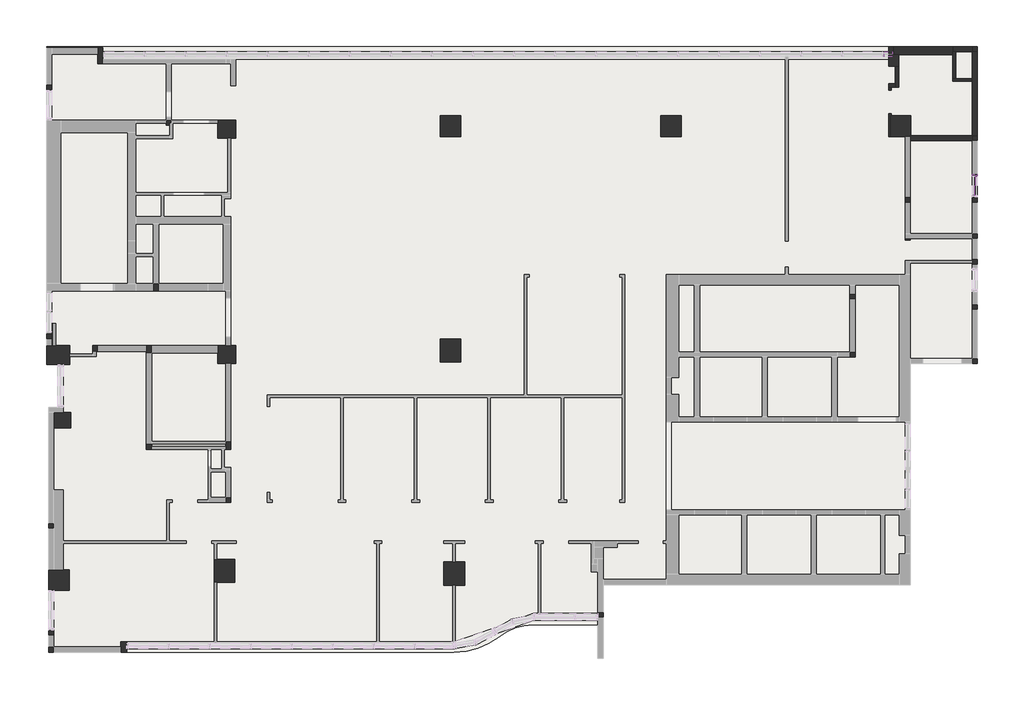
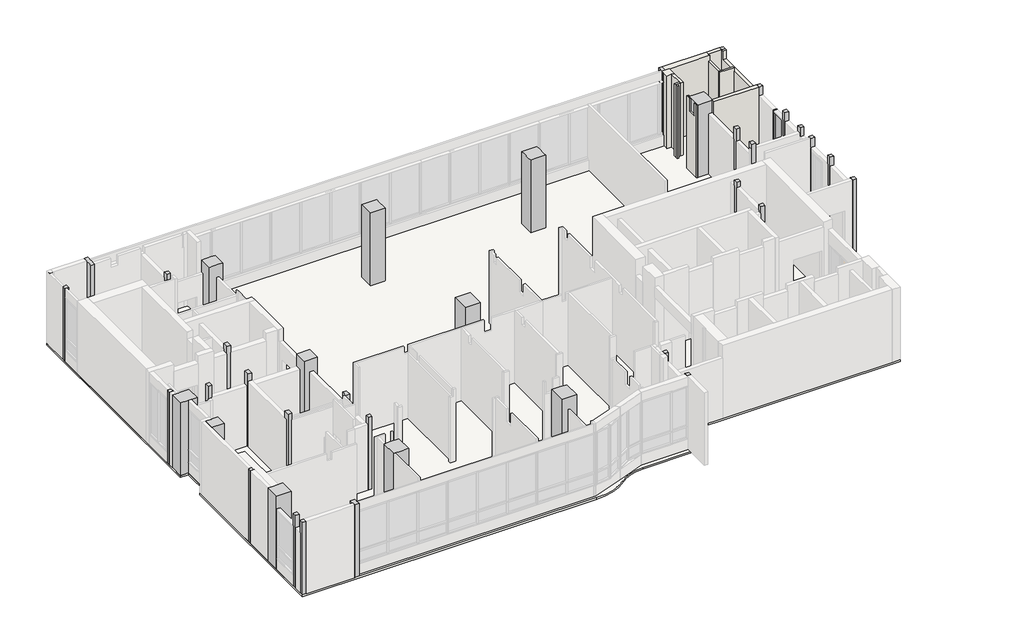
# One storey, part 5 of 5: 40 columns, 11 walls, 5 members, 2 plates, 1 slab.
"""IFC4 building model written with IfcOpenShell, lengths in millimetres."""

from ifc_helpers import new_model, si_unit, frame, origin, place, context, project, spatial, polyline, circle_curve, outline, extrude, faceted_brep, transform, mapped, element, save
from ifc_brep_helpers import plane_surface, cylinder_surface, revolved_surface, advanced_brep
from components import member_70_x_200mm_ae6c61ee, member_70_x_200mm_85eb935a, member_70_x_200mm_d2b00836, member_80_x_200mm_d4063cdf, member_80_x_200mm_ce7c0673, plate_9c331fab, plate_2cb35099

model = new_model("IFC4")

# Units and contexts
model_context = context("Model", 3, world=origin())
ifc_project = project(units=[si_unit("LENGTHUNIT", "METRE", prefix="MILLI")], contexts=[model_context])

# Site, building, storey
site = spatial("IfcSite", under=ifc_project)
building = spatial("IfcBuilding", under=site)
storey = spatial("IfcBuildingStorey", under=building, Name="20F(S)", Elevation=-100.0)

# Columns
placement = place(None, origin())
element("IfcColumn", 1, ObjectType="混凝土 - 矩形 - 柱 : 200x200", at=placement, inside=storey, context=model_context, shape_type="Brep", body=[
    faceted_brep([(6450.0000009, 2999.99237, -100.0), (6450.0000009, 2799.99237, -100.0), (6250.0000009, 2799.99237, -100.0), (6250.0000009, 2999.99237, -100.0), (6450.0000009, 2999.99237, 3300.0), (6450.0000009, 2999.99237, 4000.0), (6450.0000009, 2799.99237, 4000.0), (6450.0000009, 2799.99237, 3300.0), (6250.0000009, 2799.99237, 4000.0), (6250.0000009, 2999.99237, 4000.0)], [[[0, 1, 2, 3]], [[1, 0, 4, 5, 6, 7]], [[2, 1, 7, 6, 8]], [[3, 2, 8, 9]], [[0, 3, 9, 5, 4]], [[6, 5, 9, 8]]]),
])
element("IfcColumn", 2, ObjectType="混凝土 - 矩形 - 柱 : 200x200", at=placement, inside=storey, context=model_context, shape_type="SweptSolid", body=[
    extrude(outline(polyline([(-409.9995909, 1999.9999997), (-409.9995909, 1799.9999997), (-609.9995909, 1799.9999997), (-609.9995909, 1999.9999997), (-409.9995909, 1999.9999997)])), frame((0.0, 0.0, -100.0), z_axis=(0.0, 0.0, 1.0), x_axis=(1.0, 0.0, 0.0)), (0.0, 0.0, 1.0), 4100.0),
])
element("IfcColumn", 3, ObjectType="混凝土 - 矩形 - 柱 : 200x200", at=placement, inside=storey, context=model_context, shape_type="Brep", body=[
    faceted_brep([(-409.9999991, -2150.00763, -100.0), (-409.9999991, -2350.00763, -100.0), (-609.9999991, -2350.00763, -100.0), (-609.9999991, -2150.00763, -100.0), (-409.9999991, -2150.00763, 3300.0), (-409.9999991, -2150.00763, 4000.0), (-409.9999991, -2350.00763, 4000.0), (-409.9999991, -2350.00763, 3300.0), (-609.9999991, -2350.00763, 4000.0), (-609.9999991, -2350.00763, 3300.0), (-609.9999991, -2150.00763, 4000.0), (-609.9999991, -2150.00763, 3300.0)], [[[0, 1, 2, 3]], [[1, 0, 4, 5, 6, 7]], [[2, 1, 7, 6, 8, 9]], [[3, 2, 9, 8, 10, 11]], [[0, 3, 11, 10, 5, 4]], [[6, 5, 10, 8]]]),
])
element("IfcColumn", 4, ObjectType="混凝土 - 矩形 - 柱 : 200x200", at=placement, inside=storey, context=model_context, shape_type="SweptSolid", body=[
    extrude(outline(polyline([(-409.9999991, -2800.0152735), (-409.9999991, -3000.0152735), (-609.9999991, -3000.0152735), (-609.9999991, -2800.0152735), (-409.9999991, -2800.0152735)])), frame((0.0, 0.0, -100.0), z_axis=(0.0, 0.0, 1.0), x_axis=(1.0, 0.0, 0.0)), (0.0, 0.0, 1.0), 4100.0),
])
element("IfcColumn", 5, ObjectType="混凝土 - 矩形 - 柱 : 200x200", at=placement, inside=storey, context=model_context, shape_type="SweptSolid", body=[
    extrude(outline(polyline([(20880.000002, -1453.0229285), (20880.000002, -1653.0229285), (20680.000002, -1653.0229285), (20680.000002, -1453.0229285), (20880.000002, -1453.0229285)])), frame((0.0, 0.0, -100.0), z_axis=(0.0, 0.0, 1.0), x_axis=(1.0, 0.0, 0.0)), (0.0, 0.0, 1.0), 4100.0),
])
element("IfcColumn", 6, ObjectType="混凝土 - 矩形 - 柱 : 200x200", at=placement, inside=storey, context=model_context, shape_type="Brep", body=[
    faceted_brep([(30649.9999987, 8639.99237, -100.0), (30649.9999987, 8439.99237, -100.0), (30449.9999987, 8439.99237, -100.0), (30449.9999987, 8639.99237, -100.0), (30649.9999987, 8639.99237, 3600.0), (30649.9999987, 8639.99237, 4000.0), (30649.9999987, 8439.99237, 4000.0), (30649.9999987, 8439.99237, 3600.0), (30449.9999987, 8439.99237, 4000.0), (30449.9999987, 8439.99237, 3600.0), (30449.9999987, 8639.99237, 4000.0), (30449.9999987, 8639.99237, 3600.0)], [[[0, 1, 2, 3]], [[1, 0, 4, 5, 6, 7]], [[2, 1, 7, 6, 8, 9]], [[3, 2, 9, 8, 10, 11]], [[0, 3, 11, 10, 5, 4]], [[6, 5, 10, 8]]]),
])
element("IfcColumn", 7, ObjectType="混凝土 - 矩形 - 柱 : 200x200", at=placement, inside=storey, context=model_context, shape_type="SweptSolid", body=[
    extrude(outline(polyline([(30649.9999987, 10889.9923699), (30649.9999987, 10689.9923699), (30449.9999987, 10689.9923699), (30449.9999987, 10889.9923699), (30649.9999987, 10889.9923699)])), frame((0.0, 0.0, -100.0), z_axis=(0.0, 0.0, 1.0), x_axis=(1.0, 0.0, 0.0)), (0.0, 0.0, 1.0), 4100.0),
])
element("IfcColumn", 8, ObjectType="混凝土 - 矩形 - 柱 : 200x200", at=placement, inside=storey, context=model_context, shape_type="Brep", body=[
    faceted_brep([(35390.0000007, 8389.9847401, -100.0), (35390.0000007, 8189.9847401, -100.0), (35190.0000007, 8189.9847401, -100.0), (35190.0000007, 8389.9847401, -100.0), (35390.0000007, 8389.9847401, 4000.0), (35390.0000007, 8189.9847401, 4000.0), (35190.0000007, 8189.9847401, 4000.0), (35190.0000007, 8350.1104518, 4000.0), (35190.0000007, 8389.9847401, 4000.0)], [[[0, 1, 2, 3]], [[1, 0, 4, 5]], [[2, 1, 5, 6]], [[3, 2, 6, 7, 8]], [[0, 3, 8, 4]], [[5, 4, 8, 7, 6]]]),
])
element("IfcColumn", 9, ObjectType="混凝土 - 矩形 - 柱 : 200x200", at=placement, inside=storey, context=model_context, shape_type="Brep", body=[
    faceted_brep([(35390.0000003, 10489.9847397, -100.0), (35390.0000003, 10289.9847397, -100.0), (35190.0000003, 10289.9847397, -100.0), (35190.0000003, 10489.9847397, -100.0), (35390.0000003, 10489.9847397, 3500.0), (35390.0000003, 10489.9847397, 4000.0), (35390.0000003, 10289.9847397, 4000.0), (35390.0000003, 10289.9847397, 3500.0), (35190.0000003, 10289.9847397, 4000.0), (35190.0000003, 10289.9847397, 3500.0), (35190.0000003, 10489.9847397, 4000.0), (35190.0000003, 10489.9847397, 3500.0)], [[[0, 1, 2, 3]], [[1, 0, 4, 5, 6, 7]], [[2, 1, 7, 6, 8, 9]], [[3, 2, 9, 8, 10, 11]], [[0, 3, 11, 10, 5, 4]], [[6, 5, 10, 8]]]),
])
element("IfcColumn", 10, ObjectType="混凝土 - 矩形 - 柱 : 200x200", at=placement, inside=storey, context=model_context, shape_type="Brep", body=[
    faceted_brep([(35390.0000003, 12239.9877926, -100.0), (35390.0000003, 12039.9877926, -100.0), (35190.0000003, 12039.9877926, -100.0), (35190.0000003, 12239.9877926, -100.0), (35390.0000003, 12239.9877926, 3500.0), (35390.0000003, 12239.9877926, 4000.0), (35390.0000003, 12039.9877926, 4000.0), (35390.0000003, 12039.9877926, 3500.0), (35190.0000003, 12039.9877926, 4000.0), (35190.0000003, 12039.9877926, 3500.0), (35190.0000003, 12239.9877926, 4000.0), (35190.0000003, 12239.9877926, 3500.0)], [[[0, 1, 2, 3]], [[1, 0, 4, 5, 6, 7]], [[2, 1, 7, 6, 8, 9]], [[3, 2, 9, 8, 10, 11]], [[0, 3, 11, 10, 5, 4]], [[6, 5, 10, 8]]]),
])
element("IfcColumn", 11, ObjectType="混凝土 - 矩形 - 柱 : 200x200", at=placement, inside=storey, context=model_context, shape_type="SweptSolid", body=[
    extrude(outline(polyline([(35390.0000005, 13239.9847063), (35390.0000005, 13039.9847063), (35190.0000005, 13039.9847063), (35190.0000005, 13239.9847063), (35390.0000005, 13239.9847063)])), frame((0.0, 0.0, -100.0), z_axis=(0.0, 0.0, 1.0), x_axis=(1.0, 0.0, 0.0)), (0.0, 0.0, 1.0), 4100.0),
])
element("IfcColumn", 12, ObjectType="混凝土 - 矩形 - 柱 : 200x200", at=placement, inside=storey, context=model_context, shape_type="Brep", body=[
    faceted_brep([(32790.0000001, 14640.4582361, -100.0), (32790.0000001, 14440.4582361, -100.0), (32590.0000001, 14440.4582361, -100.0), (32590.0000001, 14640.4582361, -100.0), (32790.0000001, 14640.4582361, 3300.0), (32790.0000001, 14640.4582361, 4000.0), (32790.0000001, 14440.4582361, 4000.0), (32790.0000001, 14440.4582361, 3300.0), (32590.0000001, 14440.4582361, 4000.0), (32590.0000001, 14440.4582361, 3300.0), (32590.0000001, 14640.4582361, 4000.0), (32590.0000001, 14640.4582361, 3300.0)], [[[0, 1, 2, 3]], [[1, 0, 4, 5, 6, 7]], [[2, 1, 7, 6, 8, 9]], [[3, 2, 9, 8, 10, 11]], [[0, 3, 11, 10, 5, 4]], [[6, 5, 10, 8]]]),
])
element("IfcColumn", 13, ObjectType="混凝土 - 矩形 - 柱 : 200x200", at=placement, inside=storey, context=model_context, shape_type="SweptSolid", body=[
    extrude(outline(polyline([(35390.0000009, 14639.8579857), (35390.0000009, 14439.8579857), (35190.0000009, 14439.8579857), (35190.0000009, 14639.8579857), (35390.0000009, 14639.8579857)])), frame((0.0, 0.0, -100.0), z_axis=(0.0, 0.0, 1.0), x_axis=(1.0, 0.0, 0.0)), (0.0, 0.0, 1.0), 4100.0),
])
element("IfcColumn", 14, ObjectType="混凝土 - 矩形 - 柱 : 200x200", at=placement, inside=storey, context=model_context, shape_type="SweptSolid", body=[
    extrude(outline(polyline([(35390.0000011, 17039.9923699), (35390.0000011, 16839.9923699), (35190.0000011, 16839.9923699), (35190.0000011, 17039.9923699), (35390.0000011, 17039.9923699)])), frame((0.0, 0.0, -100.0), z_axis=(0.0, 0.0, 1.0), x_axis=(1.0, 0.0, 0.0)), (0.0, 0.0, 1.0), 4100.0),
])
element("IfcColumn", 15, ObjectType="混凝土 - 矩形 - 柱 : 200x200", at=placement, inside=storey, context=model_context, shape_type="SweptSolid", body=[
    extrude(outline(polyline([(35390.0000011, 20489.9847017), (35390.0000011, 20289.9847017), (35190.0000011, 20289.9847017), (35190.0000011, 20489.9847017), (35390.0000011, 20489.9847017)])), frame((0.0, 0.0, -100.0), z_axis=(0.0, 0.0, 1.0), x_axis=(1.0, 0.0, 0.0)), (0.0, 0.0, 1.0), 4100.0),
])
element("IfcColumn", 16, ObjectType="混凝土 - 矩形 - 柱 : 200x200", at=placement, inside=storey, context=model_context, shape_type="SweptSolid", body=[
    extrude(outline(polyline([(-489.999999, 9350.0000383), (-489.999999, 9150.0000383), (-689.999999, 9150.0000383), (-689.999999, 9350.0000383), (-489.999999, 9350.0000383)])), frame((0.0, 0.0, -100.0), z_axis=(0.0, 0.0, 1.0), x_axis=(1.0, 0.0, 0.0)), (0.0, 0.0, 1.0), 4100.0),
])
element("IfcColumn", 17, ObjectType="混凝土 - 矩形 - 柱 : 200x200", at=placement, inside=storey, context=model_context, shape_type="Brep", body=[
    faceted_brep([(4150.0000009, 17639.9923701, -100.0), (4150.0000009, 17439.9923701, -100.0), (3950.0000009, 17439.9923701, -100.0), (3950.0000009, 17639.9923701, -100.0), (4150.0000009, 17639.9923701, 4000.0), (4150.0000009, 17439.9923701, 4000.0), (4150.0000009, 17439.9923701, 3300.0), (3950.0000009, 17439.9923701, 4000.0), (3950.0000009, 17439.9923701, 3300.0), (3950.0000009, 17639.9923701, 4000.0)], [[[0, 1, 2, 3]], [[1, 0, 4, 5, 6]], [[2, 1, 6, 5, 7, 8]], [[3, 2, 8, 7, 9]], [[0, 3, 9, 4]], [[5, 4, 9, 7]]]),
])
element("IfcColumn", 18, ObjectType="混凝土 - 矩形 - 柱 : 200x200", at=placement, inside=storey, context=model_context, shape_type="Brep", body=[
    faceted_brep([(-489.9999991, 18999.99237, -100.0), (-489.9999991, 18799.99237, -100.0), (-689.9999991, 18799.99237, -100.0), (-689.9999991, 18999.99237, -100.0), (-489.9999991, 18999.99237, 3300.0), (-489.9999991, 18999.99237, 4000.0), (-489.9999991, 18799.99237, 4000.0), (-489.9999991, 18799.99237, 3300.0), (-600.0, 18799.99237, 4000.0), (-689.9999991, 18799.99237, 4000.0), (-689.9999991, 18999.99237, 4000.0), (-600.0, 18999.99237, 4000.0)], [[[0, 1, 2, 3]], [[1, 0, 4, 5, 6, 7]], [[2, 1, 7, 6, 8, 9]], [[3, 2, 9, 10]], [[0, 3, 10, 11, 5, 4]], [[6, 5, 11, 10, 9, 8]]]),
])
element("IfcColumn", 19, ObjectType="混凝土 - 矩形 - 柱 : 200x200", at=placement, inside=storey, context=model_context, shape_type="SweptSolid", body=[
    extrude(outline(polyline([(20880.000002, 619.9847014), (20880.000002, 419.9847014), (20680.000002, 419.9847014), (20680.000002, 619.9847014), (20880.000002, 619.9847014)])), frame((0.0, 0.0, -100.0), z_axis=(0.0, 0.0, 1.0), x_axis=(1.0, 0.0, 0.0)), (0.0, 0.0, 1.0), 4100.0),
])
element("IfcColumn", 20, ObjectType="混凝土 - 矩形 - 柱 : 200x230", at=placement, inside=storey, context=model_context, shape_type="Brep", body=[
    faceted_brep([(1300.0000002, 8900.0000012, -100.0), (1300.0000002, 8670.0000012, -100.0), (1100.0000002, 8670.0000012, -100.0), (1100.0000002, 8900.0000012, -100.0), (1300.0000002, 8900.0000012, 4000.0), (1300.0000002, 8670.0000012, 4000.0), (1300.0000002, 8670.0000012, 3300.0), (1100.0000002, 8670.0000012, 4000.0), (1100.0000002, 8670.0000012, 3300.0), (1100.0000002, 8900.0000012, 4000.0)], [[[0, 1, 2, 3]], [[1, 0, 4, 5, 6]], [[2, 1, 6, 5, 7, 8]], [[3, 2, 8, 7, 9]], [[0, 3, 9, 4]], [[5, 4, 9, 7]]]),
])
element("IfcColumn", 21, ObjectType="混凝土 - 矩形 - 柱 : 200x250", at=placement, inside=storey, context=model_context, shape_type="SweptSolid", body=[
    extrude(outline(polyline([(-489.999999, 20449.9885166), (-489.999999, 20199.9885166), (-689.999999, 20199.9885166), (-689.999999, 20449.9885166), (-489.999999, 20449.9885166)])), frame((0.0, 0.0, -100.0), z_axis=(0.0, 0.0, 1.0), x_axis=(1.0, 0.0, 0.0)), (0.0, 0.0, 1.0), 4100.0),
])
element("IfcColumn", 22, ObjectType="混凝土 - 矩形 - 柱 : 200x260", at=placement, inside=storey, context=model_context, shape_type="Brep", body=[
    faceted_brep([(32790.0000003, 13239.9847399, -100.0), (32790.0000003, 12979.9847399, -100.0), (32590.0000003, 12979.9847399, -100.0), (32590.0000003, 13239.9847399, -100.0), (32790.0000003, 13239.9847399, 3300.0), (32790.0000003, 13239.9847399, 4000.0), (32790.0000003, 12979.9847399, 4000.0), (32790.0000003, 12979.9847399, 3300.0), (32590.0000003, 12979.9847399, 4000.0), (32590.0000003, 12979.9847399, 3300.0), (32590.0000003, 13239.9847399, 4000.0), (32590.0000003, 13239.9847399, 3300.0)], [[[0, 1, 2, 3]], [[1, 0, 4, 5, 6, 7]], [[2, 1, 7, 6, 8, 9]], [[3, 2, 9, 8, 10, 11]], [[0, 3, 11, 10, 5, 4]], [[6, 5, 10, 8]]]),
])
element("IfcColumn", 23, ObjectType="混凝土 - 矩形 - 柱 : 200x300", at=placement, inside=storey, context=model_context, shape_type="SweptSolid", body=[
    extrude(outline(polyline([(3650.0000003, 11299.9923705), (3650.0000003, 10999.9923705), (3450.0000003, 10999.9923705), (3450.0000003, 11299.9923705), (3650.0000003, 11299.9923705)])), frame((0.0, 0.0, -100.0), z_axis=(0.0, 0.0, 1.0), x_axis=(1.0, 0.0, 0.0)), (0.0, 0.0, 1.0), 4100.0),
])
element("IfcColumn", 24, ObjectType="混凝土 - 矩形 - 柱 : 200x300", at=placement, inside=storey, context=model_context, shape_type="Brep", body=[
    faceted_brep([(3380.000001, 8900.0000012, -100.0), (3380.000001, 8600.0000012, -100.0), (3180.000001, 8600.0000012, -100.0), (3180.000001, 8900.0000012, -100.0), (3380.000001, 8900.0000012, 4000.0), (3380.000001, 8600.0000012, 4000.0), (3380.000001, 8600.0000012, 3300.0), (3180.000001, 8600.0000012, 4000.0), (3180.000001, 8600.0000012, 3300.0), (3180.000001, 8900.0000012, 4000.0)], [[[0, 1, 2, 3]], [[1, 0, 4, 5, 6]], [[2, 1, 6, 5, 7, 8]], [[3, 2, 8, 7, 9]], [[0, 3, 9, 4]], [[5, 4, 9, 7]]]),
])
element("IfcColumn", 25, ObjectType="混凝土 - 矩形 - 柱 : 200x300", at=placement, inside=storey, context=model_context, shape_type="Brep", body=[
    faceted_brep([(3380.000001, 5169.99237, -100.0), (3380.000001, 4869.99237, -100.0), (3180.000001, 4869.99237, -100.0), (3180.000001, 5169.99237, -100.0), (3380.000001, 5169.99237, 3600.0), (3380.000001, 5169.99237, 4000.0), (3380.000001, 4869.99237, 4000.0), (3380.000001, 4869.99237, 3600.0), (3180.000001, 4869.99237, 4000.0), (3180.000001, 4869.99237, 3600.0), (3180.000001, 5169.99237, 4000.0), (3180.000001, 5169.99237, 3600.0)], [[[0, 1, 2, 3]], [[1, 0, 4, 5, 6, 7]], [[2, 1, 7, 6, 8, 9]], [[3, 2, 9, 8, 10, 11]], [[0, 3, 11, 10, 5, 4]], [[6, 5, 10, 8]]]),
])
element("IfcColumn", 26, ObjectType="混凝土 - 矩形 - 柱 : 200x300", at=placement, inside=storey, context=model_context, shape_type="Brep", body=[
    faceted_brep([(6450.0000006, 5169.99237, -100.0), (6450.0000006, 4869.99237, -100.0), (6250.0000006, 4869.99237, -100.0), (6250.0000006, 5169.99237, -100.0), (6450.0000006, 5169.99237, 3300.0), (6450.0000006, 5169.99237, 4000.0), (6450.0000006, 4869.99237, 4000.0), (6450.0000006, 4869.99237, 3300.0), (6250.0000006, 4869.99237, 4000.0), (6250.0000006, 5169.99237, 4000.0)], [[[0, 1, 2, 3]], [[1, 0, 4, 5, 6, 7]], [[2, 1, 7, 6, 8]], [[3, 2, 8, 9]], [[0, 3, 9, 5, 4]], [[6, 5, 9, 8]]]),
])
element("IfcColumn", 27, ObjectType="混凝土 - 矩形 - 柱 : 200x450", at=placement, inside=storey, context=model_context, shape_type="Brep", body=[
    faceted_brep([(32150.0000003, 20489.9847016, -100.0), (32150.0000003, 20039.9847016, -100.0), (31950.0000003, 20039.9847016, -100.0), (31950.0000003, 20489.9847016, -100.0), (32150.0000003, 20489.9847016, 4000.0), (32150.0000003, 20189.9923697, 4000.0), (32150.0000003, 20039.9847016, 4000.0), (32150.0000003, 20039.9847016, 3500.0), (31950.0000003, 20039.9847016, 4000.0), (31950.0000003, 20039.9847016, 3500.0), (31950.0000003, 20189.9923697, 4000.0), (31950.0000003, 20489.9847016, 4000.0)], [[[0, 1, 2, 3]], [[1, 0, 4, 5, 6, 7]], [[2, 1, 7, 6, 8, 9]], [[3, 2, 9, 8, 10, 11]], [[0, 3, 11, 4]], [[6, 5, 4, 11, 10, 8]]]),
])
element("IfcColumn", 28, ObjectType="混凝土 - 矩形 - 柱 : 200x630", at=placement, inside=storey, context=model_context, shape_type="Brep", body=[
    faceted_brep([(1490.0000009, 20449.992367, -100.0), (1490.0000009, 19819.992367, -100.0), (1290.0000009, 19819.992367, -100.0), (1290.0000009, 20449.992367, -100.0), (1490.0000009, 20449.992367, 4000.0), (1490.0000009, 20189.9923697, 4000.0), (1490.0000009, 19989.9923697, 4000.0), (1490.0000009, 19819.992367, 4000.0), (1290.0000009, 19819.992367, 4000.0), (1290.0000009, 19989.9923697, 4000.0), (1290.0000009, 20189.9923697, 4000.0), (1290.0000009, 20449.992367, 4000.0)], [[[0, 1, 2, 3]], [[1, 0, 4, 5, 6, 7]], [[2, 1, 7, 8]], [[3, 2, 8, 9, 10, 11]], [[0, 3, 11, 4]], [[7, 6, 5, 4, 11, 10, 9, 8]]]),
])
element("IfcColumn", 29, ObjectType="混凝土 - 矩形 - 柱 : 240x410", at=placement, inside=storey, context=model_context, shape_type="Brep", body=[
    faceted_brep([(2420.0000009, -2590.00763, -100.0), (2420.0000009, -3000.00763, -100.0), (2180.0000009, -3000.00763, -100.0), (2180.0000009, -2590.00763, -100.0), (2420.0000009, -2590.00763, 4000.0), (2420.0000009, -2790.0076663, 4000.0), (2420.0000009, -3000.00763, 4000.0), (2180.0000009, -3000.00763, 4000.0), (2180.0000009, -2790.0076663, 4000.0), (2180.0000009, -2590.00763, 4000.0)], [[[0, 1, 2, 3]], [[1, 0, 4, 5, 6]], [[2, 1, 6, 7]], [[3, 2, 7, 8, 9]], [[0, 3, 9, 4]], [[6, 5, 4, 9, 8, 7]]]),
])
element("IfcColumn", 30, ObjectType="混凝土 - 矩形 - 柱 : 600x650", at=placement, inside=storey, context=model_context, shape_type="SweptSolid", body=[
    extrude(outline(polyline([(-409.999591, 6300.0), (240.000409, 6300.0), (240.000409, 5700.0), (-409.999591, 5700.0), (-409.999591, 6300.0)])), frame((0.0, 0.0, -100.0), z_axis=(0.0, 0.0, 1.0), x_axis=(1.0, 0.0, 0.0)), (0.0, 0.0, 1.0), 4100.0),
])
element("IfcColumn", 31, ObjectType="混凝土 - 矩形 - 柱 : 700x700", at=placement, inside=storey, context=model_context, shape_type="Brep", body=[
    faceted_brep([(6650.0, 17639.9923697, -100.0), (6650.0, 16939.9923697, -100.0), (5950.0, 16939.9923697, -100.0), (5950.0, 17639.9923697, -100.0), (6650.0, 17639.9923697, 4000.0), (6650.0, 16939.9923697, 4000.0), (6449.9993113, 16939.9923697, 4000.0), (6149.9993113, 16939.9923697, 4000.0), (5950.0, 16939.9923697, 4000.0), (5950.0, 17639.9923697, 4000.0), (6149.9993113, 17639.9923697, 4000.0), (6449.9993113, 17639.9923697, 4000.0)], [[[0, 1, 2, 3]], [[1, 0, 4, 5]], [[2, 1, 5, 6, 7, 8]], [[3, 2, 8, 9]], [[0, 3, 9, 10, 11, 4]], [[5, 4, 11, 10, 9, 8, 7, 6]]]),
])
element("IfcColumn", 32, ObjectType="混凝土 - 矩形 - 柱 : 700x700", at=placement, inside=storey, context=model_context, shape_type="SweptSolid", body=[
    extrude(outline(polyline([(6650.0000013, 8900.0110062), (6650.0000013, 8200.0110062), (5950.0000013, 8200.0110062), (5950.0000013, 8900.0110062), (6650.0000013, 8900.0110062)])), frame((0.0, 0.0, -100.0), z_axis=(0.0, 0.0, 1.0), x_axis=(1.0, 0.0, 0.0)), (0.0, 0.0, 1.0), 4100.0),
])
element("IfcColumn", 33, ObjectType="混凝土 - 矩形 - 柱 : 750x900", at=placement, inside=storey, context=model_context, shape_type="Brep", body=[
    faceted_brep([(-689.9999991, 8900.0000401, -100.0), (210.0000009, 8900.0000401, -100.0), (210.0000009, 8150.0000401, -100.0), (-249.9999991, 8150.0000401, -100.0), (-689.9999991, 8150.0000401, -100.0), (-689.9999991, 8900.0000401, 4000.0), (210.0000009, 8900.0000401, 4000.0), (210.0000009, 8150.0000401, 4000.0), (-249.9999991, 8150.0000401, 4000.0), (-689.9999991, 8150.0000401, 4000.0)], [[[0, 1, 2, 3, 4]], [[1, 0, 5, 6]], [[2, 1, 6, 7]], [[4, 3, 2, 7, 8, 9]], [[0, 4, 9, 5]], [[6, 5, 9, 8, 7]]]),
])
element("IfcColumn", 34, ObjectType="混凝土 - 矩形 - 柱 : 800x800", at=placement, inside=storey, context=model_context, shape_type="SweptSolid", body=[
    extrude(outline(polyline([(190.0000009, 200.0000017), (190.0000009, -599.9999983), (-609.9999991, -599.9999983), (-609.9999991, 200.0000017), (190.0000009, 200.0000017)])), frame((0.0, 0.0, -100.0), z_axis=(0.0, 0.0, 1.0), x_axis=(1.0, 0.0, 0.0)), (0.0, 0.0, 1.0), 4100.0),
])
element("IfcColumn", 35, ObjectType="混凝土 - 矩形 - 柱 : 800x800", at=placement, inside=storey, context=model_context, shape_type="Brep", body=[
    faceted_brep([(32810.0000006, 17800.0, -100.0), (32810.0000006, 17000.0, -100.0), (32010.0000006, 17000.0, -100.0), (32010.0000006, 17800.0, -100.0), (32050.0, 17800.0, -100.0), (32810.0000006, 17800.0, 4000.0), (32810.0000006, 17600.0, 4000.0), (32810.0000006, 17200.0, 4000.0), (32810.0000006, 17000.0, 4000.0), (32790.0000001, 17000.0, 4000.0), (32390.0000001, 17000.0, 4000.0), (32010.0000006, 17000.0, 4000.0), (32010.0000006, 17200.0, 4000.0), (32010.0000006, 17600.0, 4000.0), (32010.0000006, 17800.0, 4000.0), (32050.0, 17800.0, 4000.0), (32390.0000001, 17800.0, 4000.0), (32790.0000001, 17800.0, 4000.0)], [[[0, 1, 2, 3, 4]], [[1, 0, 5, 6, 7, 8]], [[2, 1, 8, 9, 10, 11]], [[3, 2, 11, 12, 13, 14]], [[0, 4, 3, 14, 15, 16, 17, 5]], [[8, 7, 6, 5, 17, 16, 15, 14, 13, 12, 11, 10, 9]]]),
])
element("IfcColumn", 36, ObjectType="混凝土 - 矩形 - 柱 : 800x800", at=placement, inside=storey, context=model_context, shape_type="Brep", body=[
    faceted_brep([(23909.9999995, 17800.0, -100.0), (23909.9999995, 17000.0, -100.0), (23109.9999995, 17000.0, -100.0), (23109.9999995, 17800.0, -100.0), (23909.9999995, 17800.0, 4000.0), (23909.9999995, 17600.0, 4000.0), (23909.9999995, 17200.0, 4000.0), (23909.9999995, 17000.0, 4000.0), (23900.0000001, 17000.0, 4000.0), (23500.0000001, 17000.0, 4000.0), (23109.9999995, 17000.0, 4000.0), (23109.9999995, 17200.0, 4000.0), (23109.9999995, 17600.0, 4000.0), (23109.9999995, 17800.0, 4000.0), (23500.0000001, 17800.0, 4000.0), (23900.0000001, 17800.0, 4000.0)], [[[0, 1, 2, 3]], [[1, 0, 4, 5, 6, 7]], [[2, 1, 7, 8, 9, 10]], [[3, 2, 10, 11, 12, 13]], [[0, 3, 13, 14, 15, 4]], [[7, 6, 5, 4, 15, 14, 13, 12, 11, 10, 9, 8]]]),
])
element("IfcColumn", 37, ObjectType="混凝土 - 矩形 - 柱 : 800x800", at=placement, inside=storey, context=model_context, shape_type="Brep", body=[
    faceted_brep([(15360.0015254, 17800.0, -100.0), (15360.0015254, 17000.0, -100.0), (14560.0015254, 17000.0, -100.0), (14560.0015254, 17800.0, -100.0), (15360.0015254, 17800.0, 4000.0), (15360.0015254, 17600.0, 4000.0), (15360.0015254, 17200.0, 4000.0), (15360.0015254, 17000.0, 4000.0), (14560.0015254, 17000.0, 4000.0), (14560.0015254, 17200.0, 4000.0), (14560.0015254, 17600.0, 4000.0), (14560.0015254, 17800.0, 4000.0)], [[[0, 1, 2, 3]], [[1, 0, 4, 5, 6, 7]], [[2, 1, 7, 8]], [[3, 2, 8, 9, 10, 11]], [[0, 3, 11, 4]], [[7, 6, 5, 4, 11, 10, 9, 8]]]),
])
element("IfcColumn", 38, ObjectType="混凝土 - 矩形 - 柱 : 800x900", at=placement, inside=storey, context=model_context, shape_type="Brep", body=[
    faceted_brep([(6610.0000007, 600.0000384, -100.0), (6610.0000007, -299.9999616, -100.0), (5810.0000007, -299.9999616, -100.0), (5810.0000007, 600.0000384, -100.0), (6610.0000007, 600.0000384, 4000.0), (6610.0000007, -299.9999616, 4000.0), (6599.9993078, -299.9999616, 4000.0), (6249.9993078, -299.9999616, 4000.0), (5810.0000007, -299.9999616, 4000.0), (5810.0000007, 600.0000384, 4000.0), (6249.9993078, 600.0000384, 4000.0), (6599.9993078, 600.0000384, 4000.0)], [[[0, 1, 2, 3]], [[1, 0, 4, 5]], [[2, 1, 5, 6, 7, 8]], [[3, 2, 8, 9]], [[0, 3, 9, 10, 11, 4]], [[5, 4, 11, 10, 9, 8, 7, 6]]]),
])
element("IfcColumn", 39, ObjectType="混凝土 - 矩形 - 柱 : 800x900", at=placement, inside=storey, context=model_context, shape_type="Brep", body=[
    faceted_brep([(15510.001528, 500.0000016, -100.0), (15510.001528, -399.9999984, -100.0), (14710.001528, -399.9999984, -100.0), (14710.001528, 500.0000016, -100.0), (15510.001528, 500.0000016, 4000.0), (15510.001528, -399.9999984, 4000.0), (15200.000833, -399.9999984, 4000.0), (14800.000833, -399.9999984, 4000.0), (14710.001528, -399.9999984, 4000.0), (14710.001528, 500.0000016, 4000.0), (14800.000833, 500.0000016, 4000.0), (15200.000833, 500.0000016, 4000.0)], [[[0, 1, 2, 3]], [[1, 0, 4, 5]], [[2, 1, 5, 6, 7, 8]], [[3, 2, 8, 9]], [[0, 3, 9, 10, 11, 4]], [[5, 4, 11, 10, 9, 8, 7, 6]]]),
])
element("IfcColumn", 40, ObjectType="混凝土 - 矩形 - 柱 : 800x900", at=placement, inside=storey, context=model_context, shape_type="SweptSolid", body=[
    extrude(outline(polyline([(15360.0015266, 9150.0), (15360.0015266, 8250.0), (14560.0015266, 8250.0), (14560.0015266, 9150.0), (15360.0015266, 9150.0)])), frame((0.0, 0.0, -100.0), z_axis=(0.0, 0.0, 1.0), x_axis=(1.0, 0.0, 0.0)), (0.0, 0.0, 1.0), 4100.0),
])

# Members
member_70_x_200mm_shape = member_70_x_200mm_ae6c61ee(model_context)
element("IfcMember", 41, ObjectType="矩形竖梃 : 70 x 200mm", at=placement, inside=storey, context=model_context, shape_type="MappedRepresentation", body=[
    mapped(member_70_x_200mm_shape, transform((35290.0000011, 15539.8579857, 3500.0), x_axis=(0.0, 1.0, 0.0), y_axis=(-1.0, 0.0, 0.0), z_axis=(0.0, 0.0, 1.0))),
])
member_70_x_200mm_2_shape = member_70_x_200mm_85eb935a(model_context)
element("IfcMember", 42, ObjectType="矩形竖梃 : 70 x 200mm", at=placement, inside=storey, context=model_context, shape_type="MappedRepresentation", body=[
    mapped(member_70_x_200mm_2_shape, transform((35290.0000011, 15539.8579857, 1210.0), x_axis=(0.0, 1.0, 0.0), y_axis=(-1.0, 0.0, 0.0), z_axis=(0.0, 0.0, 1.0))),
])
member_70_x_200mm_3_shape = member_70_x_200mm_d2b00836(model_context)
element("IfcMember", 43, ObjectType="矩形竖梃 : 70 x 200mm", at=placement, inside=storey, context=model_context, shape_type="MappedRepresentation", body=[
    mapped(member_70_x_200mm_3_shape, transform((32150.0000003, 20190.0, 500.0), x_axis=(1.0, 0.0, 0.0), y_axis=(0.0, -1.0, 0.0), z_axis=(0.0, 0.0, -1.0))),
])
member_80_x_200mm_shape = member_80_x_200mm_d4063cdf(model_context)
element("IfcMember", 44, ObjectType="矩形竖梃 : 80 x 200mm", at=placement, inside=storey, context=model_context, shape_type="MappedRepresentation", body=[
    mapped(member_80_x_200mm_shape, transform((32080.0000003, 20190.0, 3490.0), x_axis=(0.0, 0.0, 1.0), y_axis=(0.0, -1.0, 0.0), z_axis=(1.0, 0.0, 0.0))),
])
member_80_x_200mm_2_shape = member_80_x_200mm_ce7c0673(model_context)
element("IfcMember", 45, ObjectType="矩形竖梃 : 80 x 200mm", at=placement, inside=storey, context=model_context, shape_type="MappedRepresentation", body=[
    mapped(member_80_x_200mm_2_shape, transform((35290.0000011, 15469.8579857, 500.0), x_axis=(0.0, 0.0, -1.0), y_axis=(-1.0, 0.0, 0.0), z_axis=(0.0, 1.0, 0.0))),
])

# Plates
plate_shape = plate_9c331fab(model_context)
element("IfcPlate", 46, ObjectType="系统嵌板 : 玻璃", at=placement, inside=storey, context=model_context, shape_type="MappedRepresentation", body=[
    mapped(plate_shape, transform((35290.0000011, 15089.8579857, 580.0), x_axis=(0.0, -1.0, 0.0), y_axis=(1.0, 0.0, 0.0), z_axis=(0.0, 0.0, 1.0))),
])
plate_2_shape = plate_2cb35099(model_context)
element("IfcPlate", 47, ObjectType="系统嵌板 : 玻璃", at=placement, inside=storey, context=model_context, shape_type="MappedRepresentation", body=[
    mapped(plate_2_shape, transform((35290.0000011, 15089.8579857, 1250.0), x_axis=(0.0, -1.0, 0.0), y_axis=(1.0, 0.0, 0.0), z_axis=(0.0, 0.0, 1.0))),
])

# Slab
element("IfcSlab", 48, ObjectType="B-100mm", at=placement, inside=storey, context=model_context, shape_type="AdvancedBrep", body=[
    advanced_brep(
    [(35390.0000001, 20489.99237, -200.0), (35390.0000001, 8189.9924085, -200.0), (32790.0000031, 8189.9924085, -200.0), (32790.0000031, -380.0076684, -200.0), (20880.0000015, -380.0076684, -200.0), (20880.0000015, -1943.00763, -200.0), (18165.5342117, -1943.00763, -200.0), (16847.3545005, -2401.5, -200.0), (15100.0248321, -2999.9846886, -200.0), (-609.9999992, -2999.9846884, -200.0), (-609.9999992, 6500.0000361, -200.0), (-249.9999991, 6500.0000361, -200.0), (-249.9999991, 8150.0000401, -200.0), (-689.9999991, 8150.0000401, -200.0), (-689.9999991, 20489.99237, -200.0), (35390.0000001, 20489.99237, -100.0), (-689.9999991, 20489.99237, -100.0), (-689.9999991, 20449.9885166, -100.0), (-689.9999991, 20199.9885166, -100.0), (-689.9999991, 18999.99237, -100.0), (-689.9999991, 18799.99237, -100.0), (-689.9999991, 9350.0000383, -100.0), (-689.9999991, 9150.0000383, -100.0), (-689.9999991, 8900.0000401, -100.0), (-689.9999991, 8150.0000401, -100.0), (-249.9999991, 8150.0000401, -100.0), (-249.9999991, 6500.0000361, -100.0), (-609.9999992, 6500.0000361, -100.0), (-609.9999992, 200.0000017, -100.0), (-609.9999992, -599.9999983, -100.0), (-609.9999992, -2150.00763, -100.0), (-609.9999992, -2350.00763, -100.0), (-609.9999992, -2800.0152735, -100.0), (-609.9999992, -2999.9846884, -100.0), (15100.0248321, -2999.9846886, -100.0), (16847.3545005, -2401.5, -100.0), (18165.5342117, -1943.00763, -100.0), (20880.0000015, -1943.00763, -100.0), (20880.0000015, -380.0076684, -100.0), (32790.0000031, -380.0076684, -100.0), (32790.0000031, 8189.9924085, -100.0), (35390.0000001, 8189.9924085, -100.0), (35390.0000001, 10289.9847397, -100.0), (35390.0000001, 10489.9847397, -100.0), (35390.0000001, 12039.9877926, -100.0), (35390.0000001, 12239.9877926, -100.0)],
    [
        (0, 1),
        (1, 2),
        (2, 3),
        (3, 4),
        (4, 5),
        (5, 6),
        (6, 7, circle_curve(frame((18176.899868, -4099.8340997, -200.0), z_axis=(0.0, 0.0, 1.0), x_axis=(1.0, 0.0, 0.0)), 2156.8564159)),
        (7, 8, circle_curve(frame((15100.0248321, -149.9995869, -200.0), z_axis=(0.0, 0.0, -1.0), x_axis=(1.0, 0.0, 0.0)), 2849.9851017)),
        (8, 9),
        (9, 10),
        (10, 11),
        (11, 12),
        (12, 13),
        (13, 14),
        (14, 0),
        (15, 16),
        (16, 17),
        (17, 18),
        (18, 19),
        (19, 20),
        (20, 21),
        (21, 22),
        (22, 23),
        (23, 24),
        (24, 25),
        (25, 26),
        (26, 27),
        (27, 28),
        (28, 29),
        (29, 30),
        (30, 31),
        (31, 32),
        (32, 33),
        (33, 34),
        (34, 35, circle_curve(frame((15100.0248321, -149.9995869, -100.0), z_axis=(0.0, 0.0, 1.0), x_axis=(1.0, 0.0, 0.0)), 2849.9851017)),
        (35, 36, circle_curve(frame((18176.899868, -4099.8340997, -100.0), z_axis=(0.0, 0.0, -1.0), x_axis=(1.0, 0.0, 0.0)), 2156.8564159)),
        (36, 37),
        (37, 38),
        (38, 39),
        (39, 40),
        (40, 41),
        (41, 42),
        (42, 43),
        (43, 44),
        (44, 45),
        (45, 15),
        (0, 15),
        (41, 1),
        (40, 2),
        (39, 3),
        (38, 4),
        (37, 5),
        (36, 6),
        (35, 7),
        (34, 8),
        (33, 9),
        (27, 10),
        (26, 11),
        (25, 12),
        (24, 13),
        (16, 14),
    ],
    [
        plane_surface(frame((35390.0000001, 17600.0122861, -200.0), z_axis=(0.0, 0.0, -1.0), x_axis=(0.0, -1.0, 0.0))),
        plane_surface(frame((35390.0000001, 17600.0122861, -100.0), z_axis=(0.0, 0.0, 1.0), x_axis=(0.0, 1.0, 0.0))),
        plane_surface(frame((35390.0000001, 20489.99237, -200.0), z_axis=(1.0, 0.0, 0.0), x_axis=(0.0, 0.0, 1.0))),
        plane_surface(frame((35390.0000001, 8189.9924085, -200.0), z_axis=(0.0, -1.0, 0.0), x_axis=(0.0, 0.0, 1.0))),
        plane_surface(frame((32790.0000031, 8189.9924085, -200.0), z_axis=(1.0, 0.0, 0.0), x_axis=(0.0, 0.0, 1.0))),
        plane_surface(frame((32790.0000031, -380.0076684, -200.0), z_axis=(0.0, -1.0, 0.0), x_axis=(0.0, 0.0, 1.0))),
        plane_surface(frame((20880.0000015, -380.0076684, -200.0), z_axis=(1.0, 0.0, 0.0), x_axis=(0.0, 0.0, 1.0))),
        plane_surface(frame((20880.0000015, -1943.00763, -200.0), z_axis=(0.0, -1.0, 0.0), x_axis=(0.0, 0.0, 1.0))),
        revolved_surface(polyline([(20333.756283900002, -4099.8340997, -100.0), (20333.756283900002, -4099.8340997, -200.0)]), (18176.899868, -4099.8340997, -100.0), (0.0, 0.0, 1.0)),
        cylinder_surface(frame((15100.0248321, -149.9995869, -100.0), z_axis=(0.0, 0.0, -1.0), x_axis=(1.0, 0.0, 0.0)), 2849.9851017),
        plane_surface(frame((15100.0248321, -2999.9846886, -200.0), z_axis=(-1.2524017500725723e-11, -1.0, 0.0), x_axis=(0.0, 0.0, 1.0))),
        plane_surface(frame((-609.9999992, -2999.9846884, -200.0), z_axis=(-1.0, 0.0, 0.0), x_axis=(0.0, 0.0, 1.0))),
        plane_surface(frame((-609.9999992, 6500.0000361, -200.0), z_axis=(0.0, 1.0, 0.0), x_axis=(0.0, 0.0, 1.0))),
        plane_surface(frame((-249.9999991, 6500.0000361, -200.0), z_axis=(-1.0, 0.0, 0.0), x_axis=(0.0, 0.0, 1.0))),
        plane_surface(frame((-249.9999991, 8150.0000401, -200.0), z_axis=(0.0, -1.0, 0.0), x_axis=(0.0, 0.0, 1.0))),
        plane_surface(frame((-689.9999991, 8150.0000401, -200.0), z_axis=(-1.0, 0.0, 0.0), x_axis=(0.0, 0.0, 1.0))),
        plane_surface(frame((-689.9999991, 20489.99237, -200.0), z_axis=(0.0, 1.0, 0.0), x_axis=(0.0, 0.0, 1.0))),
    ],
    [
        (0, [[1, 2, 3, 4, 5, 6, 7, 8, 9, 10, 11, 12, 13, 14, 15]]),
        (1, [[16, 17, 18, 19, 20, 21, 22, 23, 24, 25, 26, 27, 28, 29, 30, 31, 32, 33, 34, 35, 36, 37, 38, 39, 40, 41, 42, 43, 44, 45, 46]]),
        (2, [[-1, 47, -46, -45, -44, -43, -42, 48]]),
        (3, [[-2, -48, -41, 49]]),
        (4, [[-3, -49, -40, 50]]),
        (5, [[-4, -50, -39, 51]]),
        (6, [[-5, -51, -38, 52]]),
        (7, [[-6, -52, -37, 53]]),
        (8, [[-7, -53, -36, 54]]),
        (9, [[-8, -54, -35, 55]]),
        (10, [[-9, -55, -34, 56]]),
        (11, [[-10, -56, -33, -32, -31, -30, -29, -28, 57]]),
        (12, [[-11, -57, -27, 58]]),
        (13, [[-12, -58, -26, 59]]),
        (14, [[-13, -59, -25, 60]]),
        (15, [[-14, -60, -24, -23, -22, -21, -20, -19, -18, -17, 61]]),
        (16, [[-15, -61, -16, -47]]),
    ],
),
])

# Walls
element("IfcWall", 49, ObjectType="非承重墙-200", at=placement, inside=storey, context=model_context, shape_type="Brep", body=[
    faceted_brep([(35190.0000011, 20289.9847017, -100.0), (35190.0000011, 19239.99237, -100.0), (35190.0000011, 19139.99237, -100.0), (35190.0000011, 17039.9923699, -100.0), (35190.0000011, 17039.9923699, 3500.0), (35190.0000011, 20189.9923697, 3500.0), (35190.0000011, 20189.9923697, 4000.0), (35190.0000011, 20289.9847017, 4000.0), (35390.0000011, 17039.9923699, -100.0), (35390.0000011, 20289.9847017, -100.0), (35390.0000011, 20289.9847017, 4000.0), (35390.0000011, 20189.9923697, 4000.0), (35390.0000011, 20189.9923697, 3500.0), (35390.0000011, 17039.9923699, 3500.0)], [[[0, 1, 2, 3, 4, 5, 6, 7]], [[8, 9, 10, 11, 12, 13]], [[3, 2, 1, 0, 9, 8]], [[3, 8, 13, 4]], [[10, 7, 6, 11]], [[0, 7, 10, 9]], [[12, 5, 4, 13]], [[5, 12, 11, 6]]]),
])
element("IfcWall", 50, ObjectType="非承重墙-200", at=placement, inside=storey, context=model_context, shape_type="Brep", body=[
    faceted_brep([(35190.0000011, 17039.9923699, -100.0), (32790.0000001, 17039.9923699, -100.0), (32790.0000001, 17039.9923699, 4000.0), (35190.0000011, 17039.9923699, 4000.0), (35190.0000011, 16839.9923699, -100.0), (35190.0000011, 16839.9923699, 4000.0), (32790.0000001, 16839.9923699, 4000.0), (32790.0000001, 16839.9923699, -100.0), (32790.0000001, 17000.0, -100.0)], [[[0, 1, 2, 3]], [[4, 5, 6, 7]], [[1, 0, 4, 7, 8]], [[3, 2, 6, 5]], [[0, 3, 5, 4]], [[2, 1, 8, 7, 6]]]),
])
element("IfcWall", 51, ObjectType="非承重墙-310", at=placement, inside=storey, context=model_context, shape_type="Brep", body=[
    faceted_brep([(32150.0000003, 20179.9847016, -100.0), (34440.0000001, 20179.9847016, -100.0), (34440.0000001, 20179.9847016, 3700.0), (34490.0000001, 20179.9847016, 3700.0), (34490.0000001, 20179.9847016, 4000.0), (32150.0000003, 20179.9847016, 4000.0), (32150.0000003, 20489.9847016, -100.0), (32150.0000003, 20489.9847016, 4000.0), (34490.0000001, 20489.9847016, 4000.0), (34490.0000001, 20489.9847016, 3700.0), (34440.0000001, 20489.9847016, 3700.0), (34440.0000001, 20489.9847016, -100.0), (34440.0000001, 20289.9770333, -100.0), (34490.0000001, 20289.9770333, 4000.0), (34490.0000001, 20289.9770333, 3700.0), (34440.0000001, 20289.9770333, 3700.0)], [[[0, 1, 2, 3, 4, 5]], [[6, 7, 8, 9, 10, 11]], [[1, 0, 6, 11, 12]], [[5, 4, 13, 8, 7]], [[0, 5, 7, 6]], [[4, 3, 14, 9, 8, 13]], [[9, 14, 3, 2, 15, 10]], [[2, 1, 12, 11, 10, 15]]]),
])
element("IfcWall", 52, ObjectType="非承重墙-200", at=placement, inside=storey, context=model_context, shape_type="Brep", body=[
    faceted_brep([(35190.0000001, 20489.9770333, -100.0), (34440.0000001, 20489.9770333, -100.0), (34440.0000001, 20489.9770333, 3700.0), (34490.0000001, 20489.9770333, 3700.0), (34490.0000001, 20489.9770333, 4000.0), (35190.0000001, 20489.9770333, 4000.0), (35190.0000001, 20289.9770333, -100.0), (35190.0000001, 20289.9770333, 4000.0), (34490.0000001, 20289.9770333, 4000.0), (34490.0000001, 20289.9770333, 3700.0), (34440.0000001, 20289.9770333, 3700.0), (34440.0000001, 20289.9770333, -100.0), (34540.0000001, 20289.9770333, -100.0)], [[[0, 1, 2, 3, 4, 5]], [[6, 7, 8, 9, 10, 11, 12]], [[1, 0, 6, 12, 11]], [[5, 4, 8, 7]], [[0, 5, 7, 6]], [[4, 3, 9, 8]], [[9, 3, 2, 10]], [[2, 1, 11, 10]]]),
])
element("IfcWall", 53, ObjectType="非承重墙-100", at=placement, inside=storey, context=model_context, shape_type="Brep", body=[
    faceted_brep([(35190.0000011, 19239.99237, -100.0), (34540.0000001, 19239.99237, -100.0), (34440.0000001, 19239.99237, -100.0), (34440.0000001, 19239.99237, 3700.0), (34540.0000001, 19239.99237, 3700.0), (35190.0000011, 19239.99237, 3700.0), (35190.0000011, 19139.99237, -100.0), (35190.0000011, 19139.99237, 3700.0), (34440.0000001, 19139.99237, 3700.0), (34440.0000001, 19139.99237, -100.0)], [[[0, 1, 2, 3, 4, 5]], [[6, 7, 8, 9]], [[2, 1, 0, 6, 9]], [[5, 4, 3, 8, 7]], [[0, 5, 7, 6]], [[3, 2, 9, 8]]]),
])
element("IfcWall", 54, ObjectType="非承重墙-100", at=placement, inside=storey, context=model_context, shape_type="Brep", body=[
    faceted_brep([(34540.0000001, 19239.99237, -100.0), (34540.0000001, 20289.9770333, -100.0), (34540.0000001, 20289.9770333, 3700.0), (34540.0000001, 19239.99237, 3700.0), (34440.0000001, 19239.99237, -100.0), (34440.0000001, 19239.99237, 3700.0), (34440.0000001, 20179.9847016, 3700.0), (34440.0000001, 20289.9770333, 3700.0), (34440.0000001, 20289.9770333, -100.0), (34440.0000001, 20179.9847016, -100.0), (34490.0000001, 20289.9770333, 3700.0)], [[[0, 1, 2, 3]], [[4, 5, 6, 7, 8, 9]], [[1, 0, 4, 9, 8]], [[3, 2, 10, 7, 6, 5]], [[0, 3, 5, 4]], [[2, 1, 8, 7, 10]]]),
])
element("IfcWall", 55, ObjectType="非承重墙-390", at=placement, inside=storey, context=model_context, shape_type="Brep", body=[
    faceted_brep([(31950.0000001, 20179.9847016, -100.0), (31950.0000001, 19734.99237, -100.0), (31950.0000001, 19734.99237, 4000.0), (31950.0000001, 20179.9847016, 4000.0), (32340.0000001, 20179.9847016, -100.0), (32340.0000001, 20179.9847016, 4000.0), (32340.0000001, 19734.99237, 4000.0), (32340.0000001, 19734.99237, -100.0), (32200.0000001, 19734.99237, -100.0), (32200.0000001, 19734.99237, 4000.0)], [[[0, 1, 2, 3]], [[4, 5, 6, 7]], [[1, 0, 4, 7, 8]], [[2, 1, 8, 7, 6, 9]], [[3, 2, 9, 6, 5]], [[0, 3, 5, 4]]]),
])
element("IfcWall", 56, ObjectType="非承重墙-140", at=placement, inside=storey, context=model_context, shape_type="Brep", body=[
    faceted_brep([(32200.0000001, 19734.99237, -100.0), (32200.0000001, 19039.99237, -100.0), (32200.0000001, 18909.99237, -100.0), (32200.0000001, 18909.99237, 4000.0), (32200.0000001, 19039.99237, 4000.0), (32200.0000001, 19734.99237, 4000.0), (32340.0000001, 19734.99237, -100.0), (32340.0000001, 19734.99237, 4000.0), (32340.0000001, 18909.99237, 4000.0), (32340.0000001, 18909.99237, -100.0)], [[[0, 1, 2, 3, 4, 5]], [[6, 7, 8, 9]], [[2, 1, 0, 6, 9]], [[5, 4, 3, 8, 7]], [[0, 5, 7, 6]], [[3, 2, 9, 8]]]),
])
element("IfcWall", 57, ObjectType="非承重墙-130", at=placement, inside=storey, context=model_context, shape_type="SweptSolid", body=[
    extrude(outline(polyline([(31950.0, 19039.99237), (32200.0000001, 19039.99237), (32200.0000001, 18909.99237), (31950.0, 18909.99237), (31950.0, 19039.99237)])), frame((0.0, 0.0, -100.0), z_axis=(0.0, 0.0, 1.0), x_axis=(1.0, 0.0, 0.0)), (0.0, 0.0, 1.0), 4100.0),
])
element("IfcWall", 58, ObjectType="轻钢龙骨-100", at=placement, inside=storey, context=model_context, shape_type="Brep", body=[
    faceted_brep([(32050.0, 17889.99237, -100.0), (32050.0, 17889.99237, 4000.0), (32050.0, 17800.0, 4000.0), (32050.0, 17800.0, -100.0), (31950.0, 17889.99237, -100.0), (31950.0, 16999.9985126, -100.0), (31950.0, 16999.9985126, 4000.0), (31950.0, 17200.0, 4000.0), (31950.0, 17200.0, 3300.0), (31950.0, 17600.0, 3300.0), (31950.0, 17600.0, 4000.0), (31950.0, 17889.99237, 4000.0), (32010.0000006, 17800.0, -100.0), (32010.0000006, 16999.9985126, -100.0), (32010.0000006, 17600.0, 4000.0), (32010.0000006, 17800.0, 4000.0), (32010.0000006, 16999.9985126, 4000.0), (32010.0000006, 17200.0, 4000.0), (32010.0000006, 17600.0, 3300.0), (32010.0000006, 17200.0, 3300.0)], [[[0, 1, 2, 3]], [[4, 5, 6, 7, 8, 9, 10, 11]], [[5, 4, 0, 3, 12, 13]], [[1, 0, 4, 11]], [[1, 11, 10, 14, 15, 2]], [[7, 6, 16, 17]], [[6, 5, 13, 16]], [[10, 9, 18, 14]], [[9, 8, 19, 18]], [[8, 7, 17, 19]], [[12, 15, 14, 18, 19, 17, 16, 13]], [[15, 12, 3, 2]]]),
])
element("IfcWall", 59, ObjectType="轻钢龙骨-100", at=placement, inside=storey, context=model_context, shape_type="SweptSolid", body=[
    extrude(outline(polyline([(32050.0, 18909.99237), (32050.0, 18789.99237), (31950.0, 18789.99237), (31950.0, 18909.99237), (32050.0, 18909.99237)])), frame((0.0, 0.0, -100.0), z_axis=(0.0, 0.0, 1.0), x_axis=(1.0, 0.0, 0.0)), (0.0, 0.0, 1.0), 4100.0),
])

save(model, "model.ifc")
